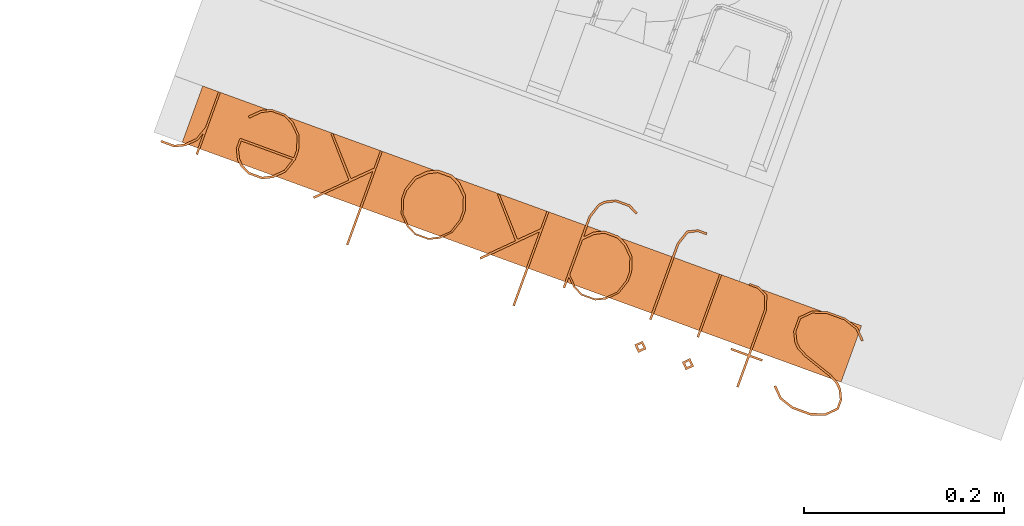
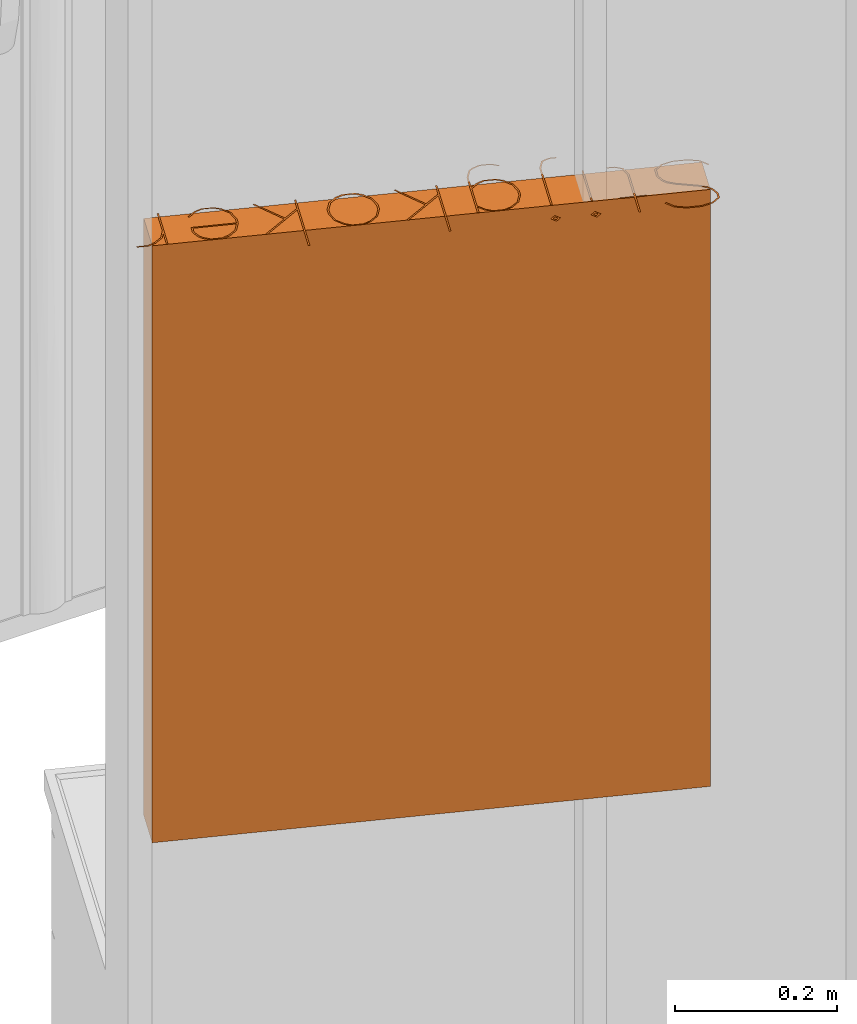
# One storey, part 4 of 32: 1 proxy.
"""IFC2X3 building model written with IfcOpenShell, lengths in metres."""

from ifc_helpers import new_model, entity, si_unit, converted_unit, derived_unit, direction, frame, origin, place, context, subcontext, project, spatial, face_set, surface_model, source, transform, mapped, material, type_object, type_shapes, element, save


model = new_model("IFC2X3")

# Units and contexts
model_context = context("Model", 3, precision=1e-05, world=origin(), true_north=direction((6.12303176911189e-17, 1.0)))
body_context = subcontext(model_context, "Body", "Model", "MODEL_VIEW")
ifc_project = project(units=[si_unit("LENGTHUNIT", "METRE"), si_unit("AREAUNIT", "SQUARE_METRE"), si_unit("VOLUMEUNIT", "CUBIC_METRE"), converted_unit("PLANEANGLEUNIT", "DEGREE", entity("IfcRatioMeasure", 0.0174532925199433), si_unit("PLANEANGLEUNIT", "RADIAN"), dimensions=[0, 0, 0, 0, 0, 0, 0]), si_unit("MASSUNIT", "GRAM", prefix="KILO"), derived_unit("MASSDENSITYUNIT", [(si_unit("MASSUNIT", "GRAM", prefix="KILO"), 1), (si_unit("LENGTHUNIT", "METRE"), -3)]), derived_unit("MOMENTOFINERTIAUNIT", [(si_unit("LENGTHUNIT", "METRE"), 4)]), si_unit("TIMEUNIT", "SECOND"), si_unit("FREQUENCYUNIT", "HERTZ"), si_unit("THERMODYNAMICTEMPERATUREUNIT", "DEGREE_CELSIUS"), derived_unit("THERMALTRANSMITTANCEUNIT", [(si_unit("MASSUNIT", "GRAM", prefix="KILO"), 1), (si_unit("THERMODYNAMICTEMPERATUREUNIT", "KELVIN"), -1), (si_unit("TIMEUNIT", "SECOND"), -3)]), derived_unit("VOLUMETRICFLOWRATEUNIT", [(si_unit("LENGTHUNIT", "METRE"), 3), (si_unit("TIMEUNIT", "SECOND"), -1)]), si_unit("ELECTRICCURRENTUNIT", "AMPERE"), si_unit("ELECTRICVOLTAGEUNIT", "VOLT"), si_unit("POWERUNIT", "WATT"), si_unit("FORCEUNIT", "NEWTON", prefix="KILO"), si_unit("ILLUMINANCEUNIT", "LUX"), si_unit("LUMINOUSFLUXUNIT", "LUMEN"), si_unit("LUMINOUSINTENSITYUNIT", "CANDELA"), derived_unit("USERDEFINED", [(si_unit("MASSUNIT", "GRAM", prefix="KILO"), -1), (si_unit("LENGTHUNIT", "METRE"), -2), (si_unit("TIMEUNIT", "SECOND"), 3), (si_unit("LUMINOUSFLUXUNIT", "LUMEN"), 1)]), derived_unit("LINEARVELOCITYUNIT", [(si_unit("LENGTHUNIT", "METRE"), 1), (si_unit("TIMEUNIT", "SECOND"), -1)]), si_unit("PRESSUREUNIT", "PASCAL"), derived_unit("USERDEFINED", [(si_unit("LENGTHUNIT", "METRE"), -2), (si_unit("MASSUNIT", "GRAM", prefix="KILO"), 1), (si_unit("TIMEUNIT", "SECOND"), -2)]), derived_unit("LINEARFORCEUNIT", [(si_unit("MASSUNIT", "GRAM", prefix="KILO"), 1), (si_unit("LENGTHUNIT", "METRE"), 1), (si_unit("TIMEUNIT", "SECOND"), -2), (si_unit("LENGTHUNIT", "METRE"), -1)]), derived_unit("PLANARFORCEUNIT", [(si_unit("MASSUNIT", "GRAM", prefix="KILO"), 1), (si_unit("LENGTHUNIT", "METRE"), 1), (si_unit("TIMEUNIT", "SECOND"), -2), (si_unit("LENGTHUNIT", "METRE"), -2)])], contexts=[model_context])

# Site, building, storey
site_placement = place(None, origin())
site = spatial("IfcSite", under=ifc_project, at=site_placement, Name="Default", CompositionType="ELEMENT")
building_placement = place(site_placement, origin())
building = spatial("IfcBuilding", under=site, at=building_placement, CompositionType="ELEMENT")
storey_placement = place(building_placement, origin())
storey = spatial("IfcBuildingStorey", under=building, at=storey_placement, Name="00 EG", CompositionType="ELEMENT", Elevation=0.0)

# Proxy
ifc_material = material(Name="dh_Stellfläche")
building_element_proxy_type = type_object("IfcBuildingElementProxyType", Name="dh_Gerät_Stellfläche Bestand:Nutzergerät", PredefinedType="NOTDEFINED", material=ifc_material)
shared_shape = source(origin(), body_context, "Body", "SurfaceModel", [
    surface_model("IfcFaceBasedSurfaceModel", [(-0.355113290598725, -0.0453817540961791, 0.905000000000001), (-0.356700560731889, -0.0470458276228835, 0.905000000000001), (-0.346946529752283, -0.0567998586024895, 0.905000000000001), (-0.332277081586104, -0.0616384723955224, 0.905000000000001), (-0.312948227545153, -0.0616384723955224, 0.905000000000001), (-0.298278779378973, -0.0567998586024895, 0.905000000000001), (-0.288166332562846, -0.0466618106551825, 0.905000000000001), (-0.288166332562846, -0.0314547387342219, 0.905000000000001), (-0.29308174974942, -0.0214446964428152, 0.905000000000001), (-0.298073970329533, -0.0163500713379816, 0.905000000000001), (-0.307904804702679, -0.0115114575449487, 0.905000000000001), (-0.336450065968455, -0.00188543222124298, 0.905000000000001), (-0.34569207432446, 0.00295318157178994, 0.905000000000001), (-0.350197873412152, 0.00745898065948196, 0.905000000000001), (-0.354857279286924, 0.0166497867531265, 0.905000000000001), (-0.354857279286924, 0.0255845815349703, 0.905000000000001), (-0.34582007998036, 0.0347241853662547, 0.905000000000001), (-0.331944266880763, 0.0393579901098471, 0.905000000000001), (-0.313204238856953, 0.0393579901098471, 0.905000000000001), (-0.299328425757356, 0.0347241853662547, 0.905000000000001), (-0.290112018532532, 0.0252005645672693, 0.905000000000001), (-0.288447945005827, 0.0268646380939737, 0.905000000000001), (-0.298278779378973, 0.0366186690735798, 0.905000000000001), (-0.312948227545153, 0.041585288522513, 0.905000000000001), (-0.332277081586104, 0.041585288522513, 0.905000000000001), (-0.346946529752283, 0.0366186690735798, 0.905000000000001), (-0.35698217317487, 0.0264550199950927, 0.905000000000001), (-0.35698217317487, 0.016112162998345, 0.905000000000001), (-0.352117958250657, 0.00610212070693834, 0.905000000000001), (-0.347074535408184, 0.00100749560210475, 0.905000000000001), (-0.337243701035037, -0.00383111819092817, 0.905000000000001), (-0.308698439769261, -0.0134571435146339, 0.905000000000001), (-0.299456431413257, -0.0182957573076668, 0.905000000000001), (-0.294950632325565, -0.0228015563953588, 0.905000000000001), (-0.290368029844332, -0.0320691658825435, 0.905000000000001), (-0.290368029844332, -0.0457657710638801, 0.905000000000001), (-0.299328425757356, -0.0549053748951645, 0.905000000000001), (-0.313204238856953, -0.0595647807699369, 0.905000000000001), (-0.331944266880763, -0.0595647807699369, 0.905000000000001), (-0.34582007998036, -0.0549053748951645, 0.905000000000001), (-0.230691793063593, -0.0616384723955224, 0.905000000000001), (-0.230691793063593, -0.0595647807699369, 0.905000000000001), (-0.239908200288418, -0.0595647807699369, 0.905000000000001), (-0.248740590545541, -0.055084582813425, 0.905000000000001), (-0.253399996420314, -0.0413879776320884, 0.905000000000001), (-0.253399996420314, 0.00533408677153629, 0.905000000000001), (-0.235402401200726, 0.00533408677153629, 0.905000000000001), (-0.235402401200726, 0.00745898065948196, 0.905000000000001), (-0.253399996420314, 0.00745898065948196, 0.905000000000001), (-0.253399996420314, 0.0399468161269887, 0.905000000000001), (-0.255576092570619, 0.0399468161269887, 0.905000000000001), (-0.255576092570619, 0.00745898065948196, 0.905000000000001), (-0.268735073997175, 0.00745898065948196, 0.905000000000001), (-0.268735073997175, 0.00533408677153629, 0.905000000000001), (-0.255576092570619, 0.00533408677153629, 0.905000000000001), (-0.255576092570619, -0.0416439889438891, 0.905000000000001), (-0.250660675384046, -0.0566974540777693, 0.905000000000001), (-0.240445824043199, -0.0616384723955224, 0.905000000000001), (-0.201327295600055, -0.0599999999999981, 0.905000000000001), (-0.199202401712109, -0.0599999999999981, 0.905000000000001), (-0.199202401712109, 0.00666534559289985, 0.905000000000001), (-0.201327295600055, 0.00666534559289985, 0.905000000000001), (-0.17329405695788, -0.0922318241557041, 0.905000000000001), (-0.17329405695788, -0.0944079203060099, 0.905000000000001), (-0.163744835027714, -0.0944079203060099, 0.905000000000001), (-0.153581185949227, -0.0893644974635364, 0.905000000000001), (-0.148665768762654, -0.0744390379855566, 0.905000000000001), (-0.148665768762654, 0.00651173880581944, 0.905000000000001), (-0.15086746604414, 0.00651173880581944, 0.905000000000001), (-0.15086746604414, -0.0741574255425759, 0.905000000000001), (-0.155501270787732, -0.087700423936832, 0.905000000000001), (-0.164333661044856, -0.0922318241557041, 0.905000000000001), (-0.100049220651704, -0.0875980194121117, 0.905000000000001), (-0.101175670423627, -0.0895181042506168, 0.905000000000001), (-0.0913448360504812, -0.0944079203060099, 0.905000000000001), (-0.0765473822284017, -0.0944079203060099, 0.905000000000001), (-0.0666397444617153, -0.0895181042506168, 0.905000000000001), (-0.0615963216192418, -0.0843466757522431, 0.905000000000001), (-0.0566809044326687, -0.069728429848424, 0.905000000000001), (-0.0566809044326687, 0.00615332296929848, 0.905000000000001), (-0.0588826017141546, 0.00615332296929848, 0.905000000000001), (-0.0588826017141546, -0.00552079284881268, 0.905000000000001), (-0.0666397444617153, 0.0023387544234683, 0.905000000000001), (-0.0765473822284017, 0.00717736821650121, 0.905000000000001), (-0.0913448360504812, 0.00717736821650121, 0.905000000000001), (-0.101303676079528, 0.0023387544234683, 0.905000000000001), (-0.111057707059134, -0.00756888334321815, 0.905000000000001), (-0.115973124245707, -0.0221871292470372, 0.905000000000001), (-0.115973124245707, -0.0319923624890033, 0.905000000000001), (-0.111057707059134, -0.0465850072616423, 0.905000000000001), (-0.101303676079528, -0.0564926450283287, 0.905000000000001), (-0.0913448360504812, -0.0612544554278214, 0.905000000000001), (-0.0765473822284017, -0.0612544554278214, 0.905000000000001), (-0.0666397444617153, -0.0564926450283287, 0.905000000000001), (-0.0588826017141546, -0.0485818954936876, 0.905000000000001), (-0.0588826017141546, -0.0694724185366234, 0.905000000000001), (-0.0634652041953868, -0.0832970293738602, 0.905000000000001), (-0.0679710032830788, -0.0875980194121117, 0.905000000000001), (-0.077059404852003, -0.0922318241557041, 0.905000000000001), (-0.0908072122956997, -0.0922318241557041, 0.905000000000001), (-0.0588826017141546, -0.0452537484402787, 0.905000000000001), (-0.0679710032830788, -0.0542909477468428, 0.905000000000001), (-0.077059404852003, -0.0588735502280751, 0.905000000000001), (-0.0908072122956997, -0.0588735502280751, 0.905000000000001), (-0.0999212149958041, -0.0542909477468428, 0.905000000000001), (-0.109214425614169, -0.0451257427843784, 0.905000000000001), (-0.113797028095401, -0.0312499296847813, 0.905000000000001), (-0.113797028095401, -0.0220079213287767, 0.905000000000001), (-0.109214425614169, -0.00813210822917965, 0.905000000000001), (-0.0999212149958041, 0.000956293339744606, 0.905000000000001), (-0.0908072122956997, 0.00561569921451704, 0.905000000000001), (-0.077059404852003, 0.00561569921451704, 0.905000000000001), (-0.0679710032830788, 0.000956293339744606, 0.905000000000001), (-0.0588826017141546, -0.00800410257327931, 0.905000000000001), (-0.017818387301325, -0.0599999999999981, 0.905000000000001), (-0.0156934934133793, -0.0599999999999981, 0.905000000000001), (-0.0156934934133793, -0.0413367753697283, 0.905000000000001), (0.00230410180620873, -0.0235439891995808, 0.905000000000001), (0.0347919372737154, -0.0599999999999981, 0.905000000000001), (0.0364560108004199, -0.0587455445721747, 0.905000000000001), (0.00376336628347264, -0.0214958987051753, 0.905000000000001), (0.0316685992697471, 0.00625572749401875, 0.905000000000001), (0.0300813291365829, 0.00784299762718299, 0.905000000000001), (-0.0156934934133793, -0.0379574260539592, 0.905000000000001), (-0.0156934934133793, 0.0399468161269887, 0.905000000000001), (-0.017818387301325, 0.0399468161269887, 0.905000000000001), (0.120146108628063, -0.0469178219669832, 0.905000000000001), (0.125061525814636, -0.0322227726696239, 0.905000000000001), (0.125061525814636, -0.0223663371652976, 0.905000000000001), (0.120146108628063, -0.00767128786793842, 0.905000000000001), (0.110315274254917, 0.00231315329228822, 0.905000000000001), (0.100407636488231, 0.00717736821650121, 0.905000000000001), (0.0856101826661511, 0.00717736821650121, 0.905000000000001), (0.0756513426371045, 0.00231315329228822, 0.905000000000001), (0.0658973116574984, -0.00767128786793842, 0.905000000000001), (0.0609818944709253, -0.0223663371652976, 0.905000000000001), (0.0609818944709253, -0.0322227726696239, 0.905000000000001), (0.0658973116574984, -0.0469178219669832, 0.905000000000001), (0.0756513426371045, -0.0568510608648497, 0.905000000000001), (0.0856101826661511, -0.0616384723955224, 0.905000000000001), (0.100407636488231, -0.0616384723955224, 0.905000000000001), (0.110315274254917, -0.0568510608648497, 0.905000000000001), (0.118200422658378, -0.0451257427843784, 0.905000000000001), (0.108984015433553, -0.0542909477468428, 0.905000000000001), (0.0998956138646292, -0.0588735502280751, 0.905000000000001), (0.0861478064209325, -0.0588735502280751, 0.905000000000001), (0.0770338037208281, -0.0542909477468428, 0.905000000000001), (0.0677405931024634, -0.0451257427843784, 0.905000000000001), (0.0631579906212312, -0.0312499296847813, 0.905000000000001), (0.0631579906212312, -0.0220079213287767, 0.905000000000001), (0.0677405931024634, -0.00813210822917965, 0.905000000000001), (0.0770338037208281, 0.000956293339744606, 0.905000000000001), (0.0861478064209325, 0.00561569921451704, 0.905000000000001), (0.0998956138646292, 0.00561569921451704, 0.905000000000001), (0.108984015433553, 0.000956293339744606, 0.905000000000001), (0.118200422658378, -0.00813210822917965, 0.905000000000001), (0.12285982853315, -0.0220079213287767, 0.905000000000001), (0.12285982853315, -0.0312499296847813, 0.905000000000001), (0.159136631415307, -0.0599999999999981, 0.905000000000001), (0.161261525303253, -0.0599999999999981, 0.905000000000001), (0.161261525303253, -0.0413367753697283, 0.905000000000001), (0.179259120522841, -0.0235439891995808, 0.905000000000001), (0.211746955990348, -0.0599999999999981, 0.905000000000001), (0.213411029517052, -0.0587455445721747, 0.905000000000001), (0.180718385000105, -0.0214958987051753, 0.905000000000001), (0.208623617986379, 0.00625572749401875, 0.905000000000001), (0.207036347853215, 0.00784299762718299, 0.905000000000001), (0.161261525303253, -0.0379574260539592, 0.905000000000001), (0.161261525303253, 0.0399468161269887, 0.905000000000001), (0.159136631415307, 0.0399468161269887, 0.905000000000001), (0.296973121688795, -0.0471994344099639, 0.905000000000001), (0.295309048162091, -0.0455353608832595, 0.905000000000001), (0.285939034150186, -0.0549821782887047, 0.905000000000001), (0.276850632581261, -0.0595647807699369, 0.905000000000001), (0.263102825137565, -0.0595647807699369, 0.905000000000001), (0.253988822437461, -0.0549821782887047, 0.905000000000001), (0.244695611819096, -0.0457913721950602, 0.905000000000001), (0.240113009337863, -0.0318899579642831, 0.905000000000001), (0.240113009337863, -0.0236463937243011, 0.905000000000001), (0.297229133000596, -0.0236463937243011, 0.905000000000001), (0.297229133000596, -0.0127147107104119, 0.905000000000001), (0.292313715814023, -0.00273026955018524, 0.905000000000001), (0.287270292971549, 0.00231315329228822, 0.905000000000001), (0.277362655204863, 0.00717736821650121, 0.905000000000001), (0.262565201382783, 0.00717736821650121, 0.905000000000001), (0.252606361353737, 0.00231315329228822, 0.905000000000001), (0.242852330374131, -0.00767128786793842, 0.905000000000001), (0.237936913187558, -0.0223663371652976, 0.905000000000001), (0.237936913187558, -0.0322227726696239, 0.905000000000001), (0.242852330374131, -0.0469178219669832, 0.905000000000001), (0.252606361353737, -0.0568510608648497, 0.905000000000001), (0.262565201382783, -0.0616384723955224, 0.905000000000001), (0.277362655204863, -0.0616384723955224, 0.905000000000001), (0.287270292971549, -0.0568510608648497, 0.905000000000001), (0.240522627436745, -0.0214446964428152, 0.905000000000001), (0.244695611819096, -0.00874653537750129, 0.905000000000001), (0.253988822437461, 0.000341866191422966, 0.905000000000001), (0.263102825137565, 0.0050012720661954, 0.905000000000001), (0.276850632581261, 0.0050012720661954, 0.905000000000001), (0.285939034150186, 0.000341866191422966, 0.905000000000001), (0.290444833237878, -0.00416393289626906, 0.905000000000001), (0.29502743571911, -0.0132779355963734, 0.905000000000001), (0.29502743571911, -0.0214446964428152, 0.905000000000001), (0.331176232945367, -0.0599999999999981, 0.905000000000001), (0.333301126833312, -0.0599999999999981, 0.905000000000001), (0.333301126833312, -0.0223407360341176, 0.905000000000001), (0.337960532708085, -0.00856732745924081, 0.905000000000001), (0.347202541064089, 0.000469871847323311, 0.905000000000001), (0.356342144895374, 0.00507807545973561, 0.905000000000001), (0.370371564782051, 0.00507807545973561, 0.905000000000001), (0.370371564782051, 0.00717736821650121, 0.905000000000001), (0.355753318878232, 0.00717736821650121, 0.905000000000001), (0.345871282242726, 0.00236435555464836, 0.905000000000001), (0.336040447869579, -0.00751768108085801, 0.905000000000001), (0.333301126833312, -0.0156076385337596, 0.905000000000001), (0.333301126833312, 0.00630692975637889, 0.905000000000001), (0.331176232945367, 0.00630692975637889, 0.905000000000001), (-0.149792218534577, 0.0291175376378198, 0.905000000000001), (-0.14349434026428, 0.0353386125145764, 0.905000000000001), (-0.149792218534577, 0.041585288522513, 0.905000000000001), (-0.156038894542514, 0.0353386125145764, 0.905000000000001), (-0.149792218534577, 0.0319592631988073, 0.905000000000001), (-0.153043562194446, 0.035210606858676, 0.905000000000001), (-0.149792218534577, 0.0384875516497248, 0.905000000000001), (-0.146464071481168, 0.035210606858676, 0.905000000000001), (-0.200252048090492, 0.0291175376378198, 0.905000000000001), (-0.194005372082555, 0.0353386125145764, 0.905000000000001), (-0.200252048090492, 0.041585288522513, 0.905000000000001), (-0.206498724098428, 0.0353386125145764, 0.905000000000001), (-0.200252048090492, 0.0319592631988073, 0.905000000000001), (-0.20350339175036, 0.035210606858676, 0.905000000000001), (-0.200252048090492, 0.0384875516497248, 0.905000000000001), (-0.197000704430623, 0.035210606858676, 0.905000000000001), (0.35, 0.0, 0.9), (0.35, -0.06, 0.9), (-0.35, -0.06, 0.9), (-0.35, 0.0, 0.9), (0.35, 0.0, 0.0), (0.35, -0.06, 0.0), (-0.35, -0.06, 0.0), (-0.35, 0.0, 0.0)], [face_set([[[0, 1, 2, 3, 4, 5, 6, 7, 8, 9, 10, 11, 12, 13, 14, 15, 16, 17, 18, 19, 20, 21, 22, 23, 24, 25, 26, 27, 28, 29, 30, 31, 32, 33, 34, 35, 36, 37, 38, 39]]]), face_set([[[40, 41, 42, 43, 44, 45, 46, 47, 48, 49, 50, 51, 52, 53, 54, 55, 56, 57]]]), face_set([[[58, 59, 60, 61]]]), face_set([[[62, 63, 64, 65, 66, 67, 68, 69, 70, 71]]]), face_set([[[72, 73, 74, 75, 76, 77, 78, 79, 80, 81, 82, 83, 84, 85, 86, 87, 88, 89, 90, 91, 92, 93, 94, 95, 96, 97, 98, 99], [100, 101, 102, 103, 104, 105, 106, 107, 108, 109, 110, 111, 112, 113]]]), face_set([[[114, 115, 116, 117, 118, 119, 120, 121, 122, 123, 124, 125]]]), face_set([[[126, 127, 128, 129, 130, 131, 132, 133, 134, 135, 136, 137, 138, 139, 140, 141], [142, 143, 144, 145, 146, 147, 148, 149, 150, 151, 152, 153, 154, 155, 156, 157]]]), face_set([[[158, 159, 160, 161, 162, 163, 164, 165, 166, 167, 168, 169]]]), face_set([[[170, 171, 172, 173, 174, 175, 176, 177, 178, 179, 180, 181, 182, 183, 184, 185, 186, 187, 188, 189, 190, 191, 192, 193], [194, 195, 196, 197, 198, 199, 200, 201, 202]]]), face_set([[[203, 204, 205, 206, 207, 208, 209, 210, 211, 212, 213, 214, 215, 216]]]), face_set([[[217, 218, 219, 220], [221, 222, 223, 224]]]), face_set([[[225, 226, 227, 228], [229, 230, 231, 232]]]), face_set([[[233, 234, 235, 236]], [[237, 238, 239, 240]], [[236, 233, 237, 240]], [[235, 236, 240, 239]], [[234, 238, 239, 235]], [[233, 234, 238, 237]]])]),
])
type_shapes(building_element_proxy_type, [shared_shape])
proxy_placement = place(storey_placement, frame((14.7651912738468, 7.17229933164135, 1.2), z_axis=(0.0, 0.0, 1.0), x_axis=(-0.939681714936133, 0.342050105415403, 0.0)))
element("IfcBuildingElementProxy", 1, at=proxy_placement, inside=storey, type_object=building_element_proxy_type, material=ifc_material, Name="dh_Gerät_Stellfläche Bestand:Nutzergerät", ObjectType="dh_Gerät_Stellfläche Bestand:Nutzergerät", context=body_context, shape_type="MappedRepresentation", body=[
    mapped(shared_shape, transform((0.0, 0.0, 0.0), scale=1.0)),
])

save(model, "model.ifc")
